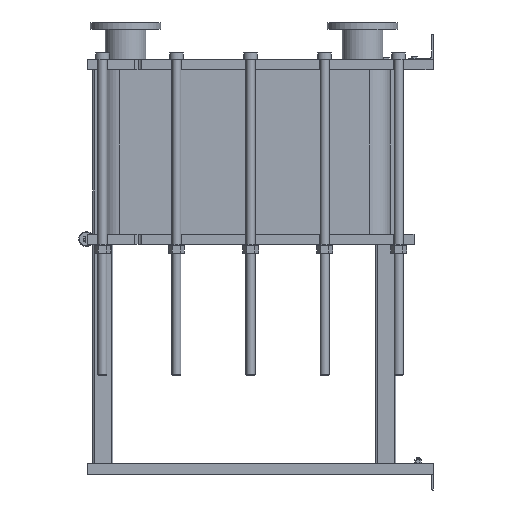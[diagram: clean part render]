
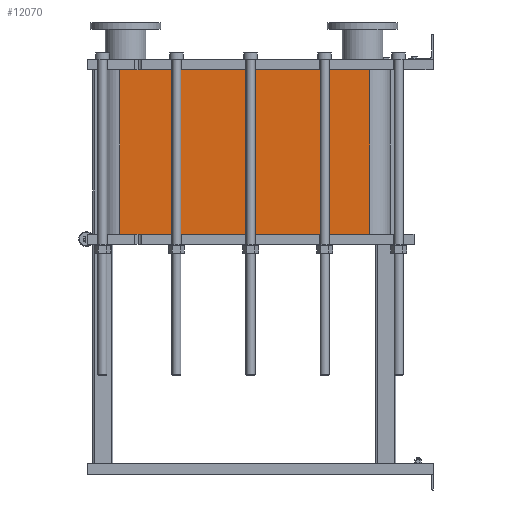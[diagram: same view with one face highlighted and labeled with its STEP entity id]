
A CAD part, left-side view. The second image highlights one B-rep face of the part: STEP entity #12070.
In plain terms, the highlighted planar face has unit normal (-1, 0, 0).
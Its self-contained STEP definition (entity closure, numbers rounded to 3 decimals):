
#1064=LINE('',#21140,#2164);
#1065=LINE('',#21144,#2165);
#1066=LINE('',#21146,#2166);
#1067=LINE('',#21147,#2167);
#2164=VECTOR('',#15790,10.);
#2165=VECTOR('',#15795,10.);
#2166=VECTOR('',#15796,10.);
#2167=VECTOR('',#15797,10.);
#3304=FACE_OUTER_BOUND('',#4091,.T.);
#4091=EDGE_LOOP('',(#9793,#9794,#9795,#9796));
#5677=VERTEX_POINT('',#21137);
#5678=VERTEX_POINT('',#21139);
#5679=VERTEX_POINT('',#21143);
#5680=VERTEX_POINT('',#21145);
#7118=EDGE_CURVE('',#5678,#5677,#1064,.T.);
#7120=EDGE_CURVE('',#5677,#5679,#1065,.T.);
#7121=EDGE_CURVE('',#5680,#5679,#1066,.T.);
#7122=EDGE_CURVE('',#5680,#5678,#1067,.T.);
#9793=ORIENTED_EDGE('',*,*,#7120,.T.);
#9794=ORIENTED_EDGE('',*,*,#7121,.F.);
#9795=ORIENTED_EDGE('',*,*,#7122,.T.);
#9796=ORIENTED_EDGE('',*,*,#7118,.T.);
#11441=PLANE('',#13191);
#12070=ADVANCED_FACE('',(#3304),#11441,.T.);
#13191=AXIS2_PLACEMENT_3D('',#21142,#15793,#15794);
#15790=DIRECTION('',(0.,0.,-1.));
#15793=DIRECTION('center_axis',(-1.,0.,0.));
#15794=DIRECTION('ref_axis',(0.,1.,0.));
#15795=DIRECTION('',(0.,-1.,0.));
#15796=DIRECTION('',(0.,0.,-1.));
#15797=DIRECTION('',(0.,1.,0.));
#21137=CARTESIAN_POINT('',(-248.152,1243.818,-652.05));
#21139=CARTESIAN_POINT('',(-248.152,1243.818,0.));
#21140=CARTESIAN_POINT('',(-248.152,1243.818,0.));
#21142=CARTESIAN_POINT('Origin',(-248.152,251.818,0.));
#21143=CARTESIAN_POINT('',(-248.152,251.818,-652.05));
#21144=CARTESIAN_POINT('',(-248.152,499.818,-652.05));
#21145=CARTESIAN_POINT('',(-248.152,251.818,0.));
#21146=CARTESIAN_POINT('',(-248.152,251.818,0.));
#21147=CARTESIAN_POINT('',(-248.152,251.818,0.));
